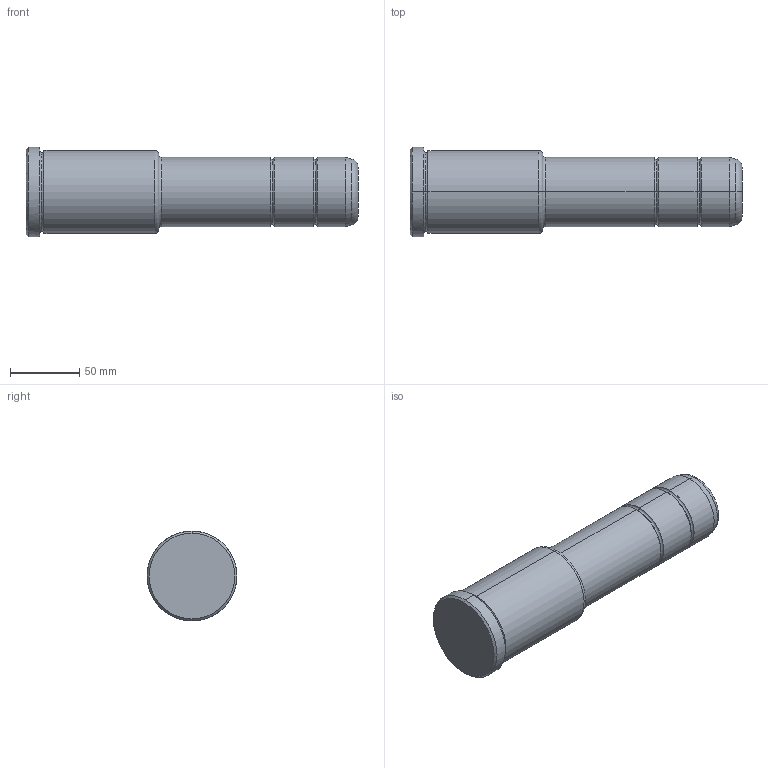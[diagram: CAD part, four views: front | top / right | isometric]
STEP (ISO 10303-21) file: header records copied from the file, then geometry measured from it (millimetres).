
FILE_DESCRIPTION(('CATIA V5 STEP Exchange'),'2;1');
FILE_NAME('C:\Users\Utente\Desktop\IO LAVORO\3D X SITO CF\X SITO\PLASTICA\351\351-50X96X240.stp','2021-11-08T18:56:11+00:00',('none'),('none'),'CATIA Version 5 Release 20 GA (IN-10)','CATIA V5 STEP AP203','none');
FILE_SCHEMA(('CONFIG_CONTROL_DESIGN'));
Length unit declared in the file: millimetre
Products named in the file (1): 351-50X96X240
Bounding box: 240 x 65 x 65 mm (x, y, z)
Volume: 554699.2 mm3; surface area: 47138.9 mm2
Topology: 1 solids, 1 shells, 35 faces, 98 edges, 66 vertices
Faces by surface type: torus 18, cylinder 10, cone 4, plane 3
Entity records: 1198 total; most frequent: CARTESIAN_POINT 256, ORIENTED_EDGE 196, DIRECTION 164, AXIS2_PLACEMENT_3D 116, EDGE_CURVE 98, CIRCLE 80, VERTEX_POINT 66, EDGE_LOOP 36
